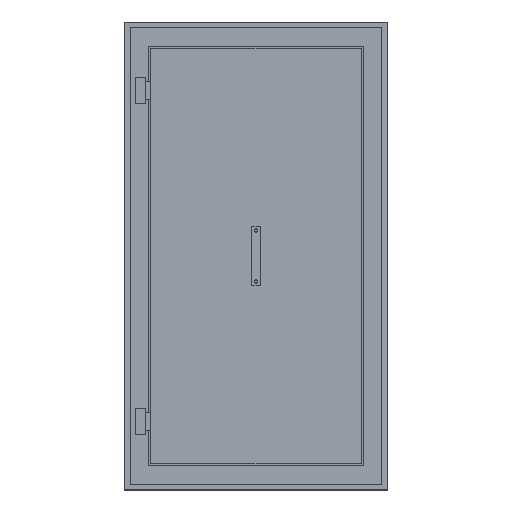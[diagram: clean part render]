
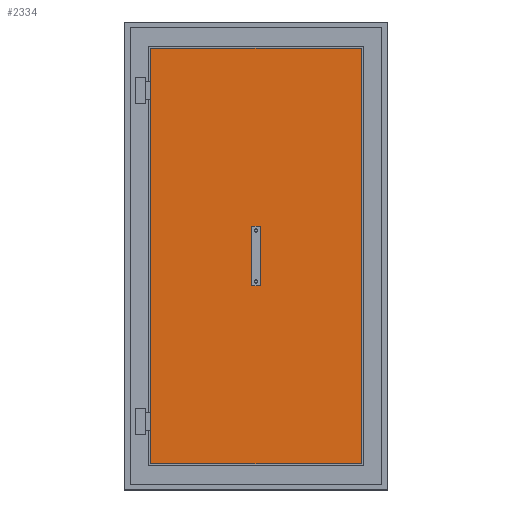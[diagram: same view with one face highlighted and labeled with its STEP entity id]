
A CAD part, top view. The second image highlights one B-rep face of the part: STEP entity #2334.
In plain terms, the highlighted planar face has unit normal (0, 0, 1).
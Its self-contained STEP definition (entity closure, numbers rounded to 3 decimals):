
#708=DIRECTION('',(0.,-1.,0.));
#709=VECTOR('',#708,2032.);
#710=CARTESIAN_POINT('',(-516.,1016.,-41.));
#711=LINE('',#710,#709);
#712=DIRECTION('',(-1.,0.,0.));
#713=VECTOR('',#712,1032.);
#714=CARTESIAN_POINT('',(516.,1016.,-41.));
#715=LINE('',#714,#713);
#716=DIRECTION('',(0.,1.,0.));
#717=VECTOR('',#716,2032.);
#718=CARTESIAN_POINT('',(516.,-1016.,-41.));
#719=LINE('',#718,#717);
#720=DIRECTION('',(1.,0.,0.));
#721=VECTOR('',#720,1032.);
#722=CARTESIAN_POINT('',(-516.,-1016.,-41.));
#723=LINE('',#722,#721);
#724=CARTESIAN_POINT('',(0.,0.,-41.));
#725=DIRECTION('',(0.,0.,1.));
#726=DIRECTION('',(1.,0.,0.));
#727=AXIS2_PLACEMENT_3D('',#724,#725,#726);
#729=CARTESIAN_POINT('',(0.,0.,-41.));
#730=DIRECTION('',(0.,0.,1.));
#731=DIRECTION('',(-1.,0.,0.));
#732=AXIS2_PLACEMENT_3D('',#729,#730,#731);
#1078=CARTESIAN_POINT('',(-516.,1016.,-41.));
#1079=CARTESIAN_POINT('',(-516.,-1016.,-41.));
#1080=VERTEX_POINT('',#1078);
#1081=VERTEX_POINT('',#1079);
#1082=CARTESIAN_POINT('',(516.,-1016.,-41.));
#1083=VERTEX_POINT('',#1082);
#1084=CARTESIAN_POINT('',(516.,1016.,-41.));
#1085=VERTEX_POINT('',#1084);
#1306=CARTESIAN_POINT('',(20.,0.,-41.));
#1307=CARTESIAN_POINT('',(-20.,0.,-41.));
#1308=VERTEX_POINT('',#1306);
#1309=VERTEX_POINT('',#1307);
#2315=CARTESIAN_POINT('',(0.,0.,-41.));
#2316=DIRECTION('',(0.,0.,1.));
#2317=DIRECTION('',(1.,0.,0.));
#2318=AXIS2_PLACEMENT_3D('',#2315,#2316,#2317);
#2319=PLANE('',#2318);
#2321=ORIENTED_EDGE('',*,*,#2320,.F.);
#2323=ORIENTED_EDGE('',*,*,#2322,.F.);
#2325=ORIENTED_EDGE('',*,*,#2324,.F.);
#2327=ORIENTED_EDGE('',*,*,#2326,.F.);
#2328=EDGE_LOOP('',(#2321,#2323,#2325,#2327));
#2329=FACE_OUTER_BOUND('',#2328,.F.);
#2330=ORIENTED_EDGE('',*,*,#1890,.T.);
#2331=ORIENTED_EDGE('',*,*,#2297,.T.);
#2332=EDGE_LOOP('',(#2330,#2331));
#2333=FACE_BOUND('',#2332,.F.);
#728=CIRCLE('',#727,20.);
#733=CIRCLE('',#732,20.);
#1890=EDGE_CURVE('',#1308,#1309,#728,.T.);
#2297=EDGE_CURVE('',#1309,#1308,#733,.T.);
#2320=EDGE_CURVE('',#1080,#1081,#711,.T.);
#2322=EDGE_CURVE('',#1085,#1080,#715,.T.);
#2324=EDGE_CURVE('',#1083,#1085,#719,.T.);
#2326=EDGE_CURVE('',#1081,#1083,#723,.T.);
#2334=ADVANCED_FACE('',(#2329,#2333),#2319,.T.);
